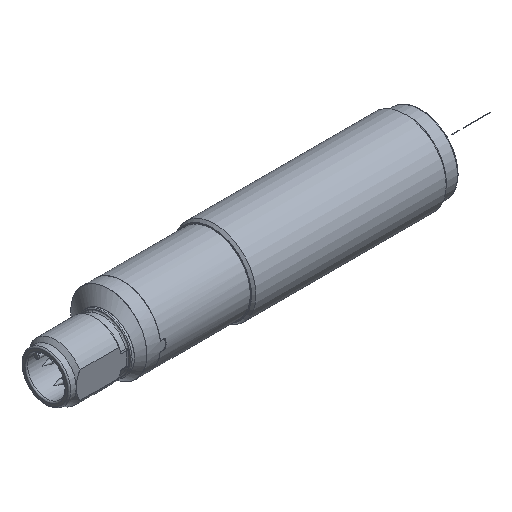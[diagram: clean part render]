
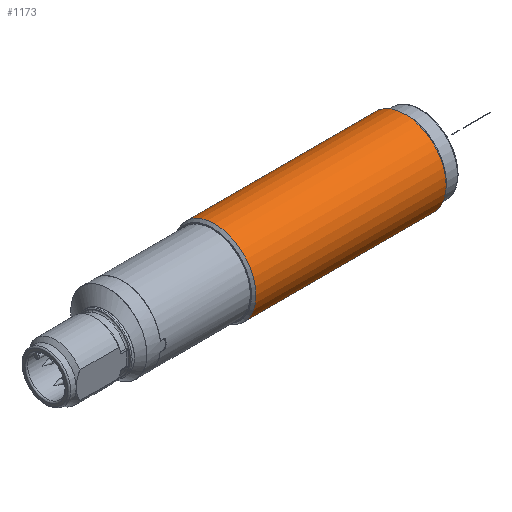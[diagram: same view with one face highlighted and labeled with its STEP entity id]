
A CAD part, isometric view. The second image highlights one B-rep face of the part: STEP entity #1173.
In plain terms, the highlighted cylindrical face has radius 9 mm (diameter 18 mm), a full revolution.
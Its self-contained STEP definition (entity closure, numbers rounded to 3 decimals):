
#77=FACE_BOUND('',#1374,.T.);
#78=FACE_BOUND('',#1375,.T.);
#170=CIRCLE('',#2939,9.);
#171=CIRCLE('',#2940,9.);
#1173=ADVANCED_FACE('',(#77,#78),#1250,.T.);
#1250=CYLINDRICAL_SURFACE('',#2941,9.);
#1374=EDGE_LOOP('',(#1828));
#1375=EDGE_LOOP('',(#1829));
#1828=ORIENTED_EDGE('',*,*,#2552,.T.);
#1829=ORIENTED_EDGE('',*,*,#2553,.T.);
#2190=VERTEX_POINT('',#4696);
#2191=VERTEX_POINT('',#4698);
#2552=EDGE_CURVE('',#2190,#2190,#170,.T.);
#2553=EDGE_CURVE('',#2191,#2191,#171,.T.);
#2939=AXIS2_PLACEMENT_3D('',#4695,#3229,#3230);
#2940=AXIS2_PLACEMENT_3D('',#4697,#3231,#3232);
#2941=AXIS2_PLACEMENT_3D('',#4699,#3233,#3234);
#3229=DIRECTION('',(1.,0.,0.));
#3230=DIRECTION('',(0.,0.,1.));
#3231=DIRECTION('',(-1.,0.,0.));
#3232=DIRECTION('',(0.,0.,1.));
#3233=DIRECTION('',(1.,0.,0.));
#3234=DIRECTION('',(0.,0.,-1.));
#4695=CARTESIAN_POINT('',(-14.545,88.595,-0.2));
#4696=CARTESIAN_POINT('',(-14.545,88.595,8.8));
#4697=CARTESIAN_POINT('',(26.955,88.595,-0.2));
#4698=CARTESIAN_POINT('',(26.955,88.595,8.8));
#4699=CARTESIAN_POINT('',(-15.045,88.595,-0.2));
